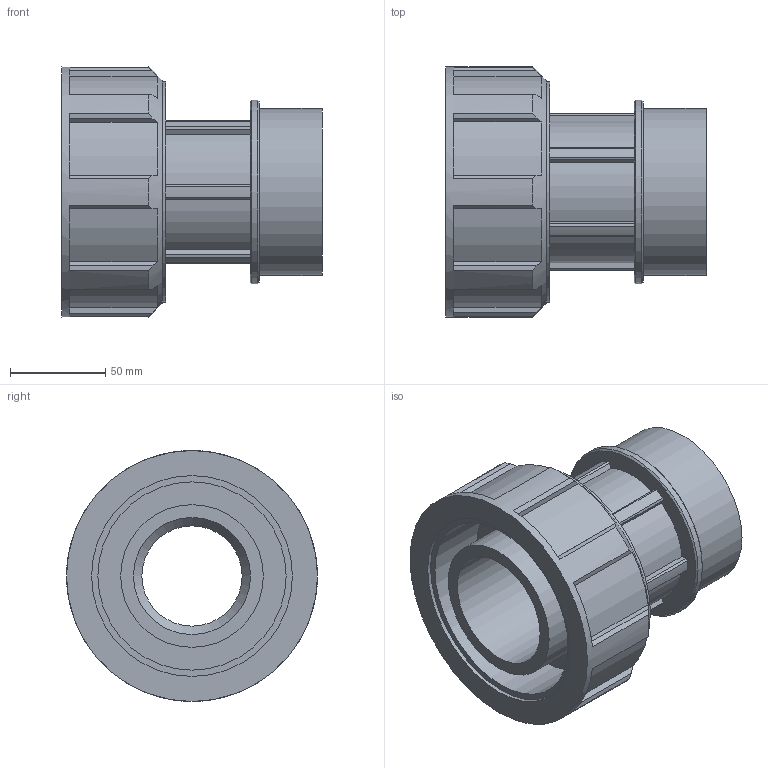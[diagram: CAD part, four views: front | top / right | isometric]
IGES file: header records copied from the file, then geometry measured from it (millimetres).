
Global section: file name: 072500075030_182500075030.ipt; native system: Autodesk Inventor 2015; preprocessor: unknown; author: KIM; date: 20170608.042214; units: millimetre
Bounding box: 137 x 132 x 132 mm (x, y, z)
Volume: 608869 mm3; surface area: 125389.2 mm2
Topology: 1 solids, 1 shells, 108 faces, 300 edges, 202 vertices
Faces by surface type: plane 74, cylinder 25, revolution 6, cone 3
Full cylindrical faces by diameter (mm): 75 x1, 87.884 x1, 96.672 x1, 116.16 x1, 132 x1
